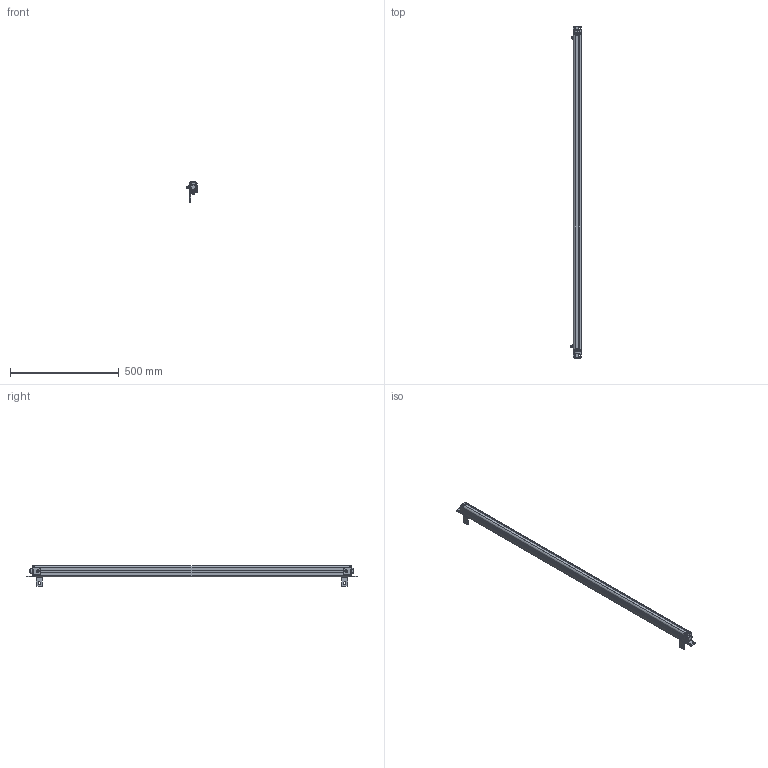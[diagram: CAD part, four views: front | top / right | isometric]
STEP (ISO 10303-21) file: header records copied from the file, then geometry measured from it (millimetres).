
FILE_DESCRIPTION((''),'2;1');
FILE_NAME('ESN--000_ASM','2021-08-11T16:32:26',('18720616900'),(''),'CREO PARAMETRIC BY PTC INC, 2019010','CREO PARAMETRIC BY PTC INC, 2019010','');
FILE_SCHEMA(('CONFIG_CONTROL_DESIGN'));
Products named in the file (22): 00; 000; _0002; _0003; _0004; 5000; 5--0001; ESN_50001_ASM; ST-3-120001; L10001; M6-8--0001; M6-1--00; M6-1-00; M6-80001_ASM; L1--0001_ASM; H1--000; H1--0003_ASM; H1--0001_ASM; ESN--000_ASM
Assembly tree (35 placements, depth 4):
  ESN--000_ASM
    00
    000
    _0002
    _0003
    _0004
    000
    ESN_50001_ASM
      5000
      5--0001  x5
    ST-3-120001  x8
    L1--0001_ASM  x2
      L10001
      M6-80001_ASM
        M6-8--0001
        M6-1--00
        M6-1-00
        00
    H1--0003_ASM
      H1--000
      M6-80001_ASM
        M6-8--0001
        M6-1--00
        M6-1-00
        00
    H1--0001_ASM
      H1--000
      M6-80001_ASM
        M6-8--0001
        M6-1--00
        M6-1-00
        00
Bounding box: 46.5 x 1527 x 94.95 mm (x, y, z)
Volume: 2194660.2 mm3; surface area: 448957.1 mm2
Topology: 40 solids, 40 shells, 1785 faces, 4708 edges, 3012 vertices
Faces by surface type: plane 583, cylinder 416, bspline 362, cone 291, torus 107, sphere 26
Entity records: 48222 total; most frequent: CARTESIAN_POINT 24957, ORIENTED_EDGE 5136, DIRECTION 4189, EDGE_CURVE 2568, VERTEX_POINT 1669, AXIS2_PLACEMENT_3D 1488, VECTOR 1213, LINE 1213
